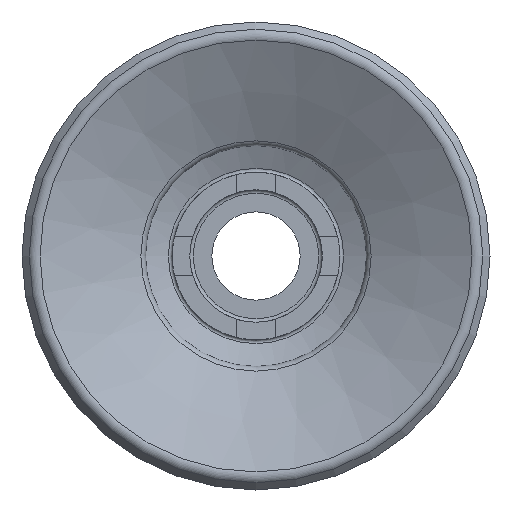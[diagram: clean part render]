
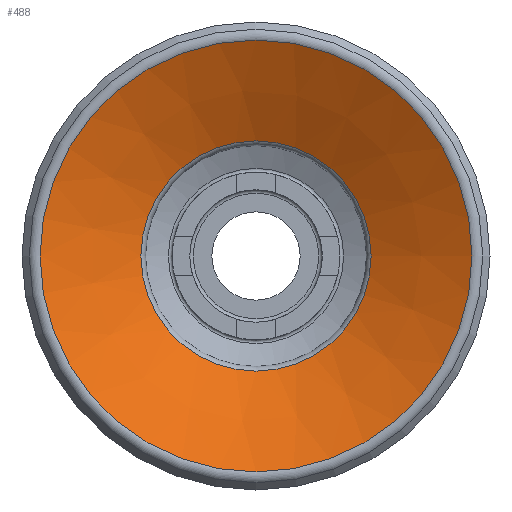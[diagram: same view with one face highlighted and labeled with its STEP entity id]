
A CAD part, front view. The second image highlights one B-rep face of the part: STEP entity #488.
In plain terms, the highlighted conical face has half-angle 62.282 degrees and reference radius 6.517 mm.
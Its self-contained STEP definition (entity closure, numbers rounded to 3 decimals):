
#104 = DIRECTION ( 'NONE',  ( 0., -1., 0. ) ) ;
#106 = EDGE_LOOP ( 'NONE', ( #786 ) ) ;
#228 = CIRCLE ( 'NONE', #1099, 6.517 ) ;
#238 = CIRCLE ( 'NONE', #313, 12.227 ) ;
#273 = EDGE_CURVE ( 'NONE', #327, #327, #228, .T. ) ;
#303 = CARTESIAN_POINT ( 'NONE',  ( 0., 3.057, 0. ) ) ;
#306 = CARTESIAN_POINT ( 'NONE',  ( 0., 0.057, 0. ) ) ;
#313 = AXIS2_PLACEMENT_3D ( 'NONE', #306, #1242, #778 ) ;
#327 = VERTEX_POINT ( 'NONE', #653 ) ;
#471 = VERTEX_POINT ( 'NONE', #811 ) ;
#488 = ADVANCED_FACE ( 'NONE', ( #1187, #1072 ), #1301, .F. ) ;
#563 = DIRECTION ( 'NONE',  ( 1., 0., 0. ) ) ;
#653 = CARTESIAN_POINT ( 'NONE',  ( 6.517, 3.057, 0. ) ) ;
#765 = DIRECTION ( 'NONE',  ( 0., -1., 0. ) ) ;
#773 = ORIENTED_EDGE ( 'NONE', *, *, #273, .F. ) ;
#778 = DIRECTION ( 'NONE',  ( 1., 0., 0. ) ) ;
#786 = ORIENTED_EDGE ( 'NONE', *, *, #1431, .T. ) ;
#811 = CARTESIAN_POINT ( 'NONE',  ( 12.227, 0.057, 0. ) ) ;
#946 = AXIS2_PLACEMENT_3D ( 'NONE', #955, #104, #563 ) ;
#955 = CARTESIAN_POINT ( 'NONE',  ( 0., 3.057, 0. ) ) ;
#992 = DIRECTION ( 'NONE',  ( 1., 0., 0. ) ) ;
#1072 = FACE_BOUND ( 'NONE', #1393, .T. ) ;
#1099 = AXIS2_PLACEMENT_3D ( 'NONE', #303, #765, #992 ) ;
#1187 = FACE_OUTER_BOUND ( 'NONE', #106, .T. ) ;
#1242 = DIRECTION ( 'NONE',  ( 0., -1., 0. ) ) ;
#1301 = CONICAL_SURFACE ( 'NONE', #946, 6.517, 1.087 ) ;
#1393 = EDGE_LOOP ( 'NONE', ( #773 ) ) ;
#1431 = EDGE_CURVE ( 'NONE', #471, #471, #238, .T. ) ;
